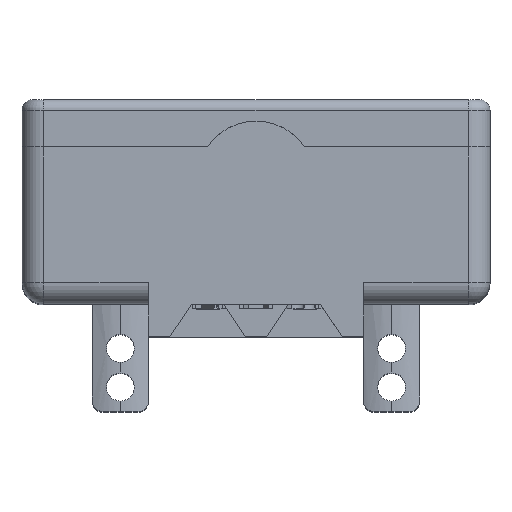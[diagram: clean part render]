
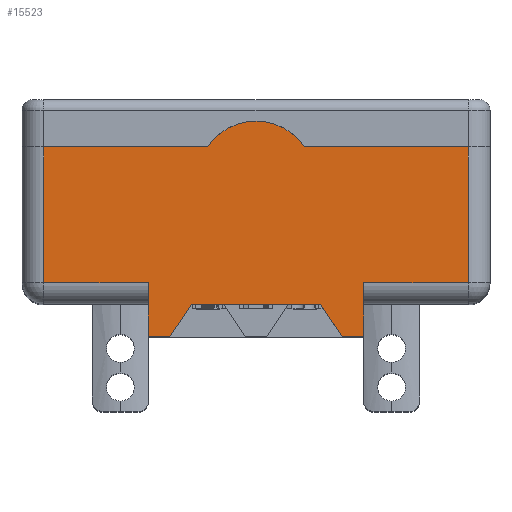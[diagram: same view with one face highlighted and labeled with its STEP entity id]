
A CAD part, top view. The second image highlights one B-rep face of the part: STEP entity #15523.
In plain terms, the highlighted planar face has unit normal (0, 0, 1).
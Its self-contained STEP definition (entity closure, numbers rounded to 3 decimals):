
#176 = LINE ( 'NONE', #177, #14412 ) ;
#177 = CARTESIAN_POINT ( 'NONE',  ( 5., -8.8, 12.6 ) ) ;
#178 = DIRECTION ( 'NONE',  ( 0., -1., 0. ) ) ;
#230 = LINE ( 'NONE', #231, #9315 ) ;
#231 = CARTESIAN_POINT ( 'NONE',  ( -10.875, 0., 12.6 ) ) ;
#232 = DIRECTION ( 'NONE',  ( -1., 0., 0. ) ) ;
#252 = LINE ( 'NONE', #253, #7396 ) ;
#253 = CARTESIAN_POINT ( 'NONE',  ( -10.875, -8.8, 12.6 ) ) ;
#254 = DIRECTION ( 'NONE',  ( -1., 0., 0. ) ) ;
#323 = CARTESIAN_POINT ( 'NONE',  ( 0., -1.509, 12.6 ) ) ;
#327 = DIRECTION ( 'NONE',  ( 0., 0., 1. ) ) ;
#328 = DIRECTION ( 'NONE',  ( -1., 0., 0. ) ) ;
#330 = LINE ( 'NONE', #331, #7416 ) ;
#331 = CARTESIAN_POINT ( 'NONE',  ( -10.875, -6.3, 12.6 ) ) ;
#332 = DIRECTION ( 'NONE',  ( 1., 0., 0. ) ) ;
#333 = LINE ( 'NONE', #334, #7417 ) ;
#334 = CARTESIAN_POINT ( 'NONE',  ( -3., -7.3, 12.6 ) ) ;
#335 = DIRECTION ( 'NONE',  ( -0.555, -0.832, 0. ) ) ;
#536 = LINE ( 'NONE', #537, #9396 ) ;
#537 = CARTESIAN_POINT ( 'NONE',  ( -5., -8.8, 12.6 ) ) ;
#538 = DIRECTION ( 'NONE',  ( 0., 1., 0. ) ) ;
#1131 = LINE ( 'NONE', #1132, #14283 ) ;
#1132 = CARTESIAN_POINT ( 'NONE',  ( -10.875, -8.8, 12.6 ) ) ;
#1133 = DIRECTION ( 'NONE',  ( -1., 0., 0. ) ) ;
#4398 = PLANE ( 'NONE',  #9152 ) ;
#4399 = CARTESIAN_POINT ( 'NONE',  ( -10.875, -8.8, 12.6 ) ) ;
#4400 = DIRECTION ( 'NONE',  ( 0., 0., -1. ) ) ;
#4401 = DIRECTION ( 'NONE',  ( -1., 0., 0. ) ) ;
#4929 = CARTESIAN_POINT ( 'NONE',  ( 5., -8.8, 12.6 ) ) ;
#4968 = CARTESIAN_POINT ( 'NONE',  ( -4., -8.8, 12.6 ) ) ;
#4976 = CARTESIAN_POINT ( 'NONE',  ( -5., -8.8, 12.6 ) ) ;
#4981 = CARTESIAN_POINT ( 'NONE',  ( -5., -6.3, 12.6 ) ) ;
#4982 = CARTESIAN_POINT ( 'NONE',  ( 9.875, -6.3, 12.6 ) ) ;
#4989 = CARTESIAN_POINT ( 'NONE',  ( -9.875, 0., 12.6 ) ) ;
#4990 = CARTESIAN_POINT ( 'NONE',  ( -2.25, 0., 12.6 ) ) ;
#5033 = CARTESIAN_POINT ( 'NONE',  ( -9.875, -6.3, 12.6 ) ) ;
#5051 = CARTESIAN_POINT ( 'NONE',  ( 4., -8.8, 12.6 ) ) ;
#5064 = CARTESIAN_POINT ( 'NONE',  ( 5., -6.3, 12.6 ) ) ;
#5146 = CARTESIAN_POINT ( 'NONE',  ( -3., -7.3, 12.6 ) ) ;
#5147 = CARTESIAN_POINT ( 'NONE',  ( 3., -7.3, 12.6 ) ) ;
#5186 = CARTESIAN_POINT ( 'NONE',  ( 9.875, 0., 12.6 ) ) ;
#5187 = CARTESIAN_POINT ( 'NONE',  ( 2.25, 0., 12.6 ) ) ;
#7396 = VECTOR ( 'NONE', #254, 1000. ) ;
#7416 = VECTOR ( 'NONE', #332, 1000. ) ;
#7417 = VECTOR ( 'NONE', #335, 1000. ) ;
#7435 = AXIS2_PLACEMENT_3D ( 'NONE', #323, #327, #328 ) ;
#7530 = EDGE_CURVE ( 'NONE', #16367, #16315, #22363, .T. ) ;
#7531 = EDGE_CURVE ( 'NONE', #16385, #16493, #22366, .T. ) ;
#7532 = EDGE_CURVE ( 'NONE', #16316, #16532, #22369, .T. ) ;
#7533 = EDGE_CURVE ( 'NONE', #16323, #16367, #22372, .T. ) ;
#7633 = EDGE_CURVE ( 'NONE', #16398, #16263, #176, .T. ) ;
#7651 = EDGE_CURVE ( 'NONE', #16324, #16323, #230, .T. ) ;
#7658 = EDGE_CURVE ( 'NONE', #16302, #16310, #252, .T. ) ;
#7683 = EDGE_CURVE ( 'NONE', #16533, #16324, #21305, .T. ) ;
#7684 = EDGE_CURVE ( 'NONE', #16398, #16316, #330, .T. ) ;
#7685 = EDGE_CURVE ( 'NONE', #16492, #16302, #333, .T. ) ;
#7747 = EDGE_CURVE ( 'NONE', #16310, #16315, #536, .T. ) ;
#7881 = EDGE_CURVE ( 'NONE', #16263, #16385, #1131, .T. ) ;
#9152 = AXIS2_PLACEMENT_3D ( 'NONE', #4399, #4400, #4401 ) ;
#9165 = FACE_OUTER_BOUND ( 'NONE', #17049, .T. ) ;
#9315 = VECTOR ( 'NONE', #232, 1000. ) ;
#9396 = VECTOR ( 'NONE', #538, 1000. ) ;
#11576 = LINE ( 'NONE', #11577, #12111 ) ;
#11577 = CARTESIAN_POINT ( 'NONE',  ( -10.875, 0., 12.6 ) ) ;
#11578 = DIRECTION ( 'NONE',  ( -1., 0., 0. ) ) ;
#11917 = LINE ( 'NONE', #11918, #12164 ) ;
#11918 = CARTESIAN_POINT ( 'NONE',  ( 1.5, -7.3, 12.6 ) ) ;
#11919 = DIRECTION ( 'NONE',  ( -1., 0., 0. ) ) ;
#12111 = VECTOR ( 'NONE', #11578, 1000. ) ;
#12164 = VECTOR ( 'NONE', #11919, 1000. ) ;
#14253 = VECTOR ( 'NONE', #22371, 1000. ) ;
#14283 = VECTOR ( 'NONE', #1133, 1000. ) ;
#14374 = VECTOR ( 'NONE', #22374, 1000. ) ;
#14391 = VECTOR ( 'NONE', #22368, 1000. ) ;
#14396 = VECTOR ( 'NONE', #22365, 1000. ) ;
#14412 = VECTOR ( 'NONE', #178, 1000. ) ;
#15523 = ADVANCED_FACE ( 'NONE', ( #9165 ), #4398, .F. ) ;
#16263 = VERTEX_POINT ( 'NONE', #4929 ) ;
#16302 = VERTEX_POINT ( 'NONE', #4968 ) ;
#16310 = VERTEX_POINT ( 'NONE', #4976 ) ;
#16315 = VERTEX_POINT ( 'NONE', #4981 ) ;
#16316 = VERTEX_POINT ( 'NONE', #4982 ) ;
#16323 = VERTEX_POINT ( 'NONE', #4989 ) ;
#16324 = VERTEX_POINT ( 'NONE', #4990 ) ;
#16367 = VERTEX_POINT ( 'NONE', #5033 ) ;
#16385 = VERTEX_POINT ( 'NONE', #5051 ) ;
#16398 = VERTEX_POINT ( 'NONE', #5064 ) ;
#16492 = VERTEX_POINT ( 'NONE', #5146 ) ;
#16493 = VERTEX_POINT ( 'NONE', #5147 ) ;
#16532 = VERTEX_POINT ( 'NONE', #5186 ) ;
#16533 = VERTEX_POINT ( 'NONE', #5187 ) ;
#17049 = EDGE_LOOP ( 'NONE', ( #17362, #17364, #17363, #17365, #17366, #17367, #17369, #17370, #17368, #17372, #17371, #17373, #17374, #17375 ) ) ;
#17362 = ORIENTED_EDGE ( 'NONE', *, *, #7530, .T. ) ;
#17363 = ORIENTED_EDGE ( 'NONE', *, *, #7658, .F. ) ;
#17364 = ORIENTED_EDGE ( 'NONE', *, *, #7747, .F. ) ;
#17365 = ORIENTED_EDGE ( 'NONE', *, *, #7685, .F. ) ;
#17366 = ORIENTED_EDGE ( 'NONE', *, *, #20905, .F. ) ;
#17367 = ORIENTED_EDGE ( 'NONE', *, *, #7531, .F. ) ;
#17368 = ORIENTED_EDGE ( 'NONE', *, *, #7684, .T. ) ;
#17369 = ORIENTED_EDGE ( 'NONE', *, *, #7881, .F. ) ;
#17370 = ORIENTED_EDGE ( 'NONE', *, *, #7633, .F. ) ;
#17371 = ORIENTED_EDGE ( 'NONE', *, *, #20839, .T. ) ;
#17372 = ORIENTED_EDGE ( 'NONE', *, *, #7532, .T. ) ;
#17373 = ORIENTED_EDGE ( 'NONE', *, *, #7683, .T. ) ;
#17374 = ORIENTED_EDGE ( 'NONE', *, *, #7651, .T. ) ;
#17375 = ORIENTED_EDGE ( 'NONE', *, *, #7533, .T. ) ;
#20839 = EDGE_CURVE ( 'NONE', #16532, #16533, #11576, .T. ) ;
#20905 = EDGE_CURVE ( 'NONE', #16493, #16492, #11917, .T. ) ;
#21305 = CIRCLE ( 'NONE', #7435, 2.709 ) ;
#22363 = LINE ( 'NONE', #22364, #14396 ) ;
#22364 = CARTESIAN_POINT ( 'NONE',  ( -10.875, -6.3, 12.6 ) ) ;
#22365 = DIRECTION ( 'NONE',  ( 1., 0., 0. ) ) ;
#22366 = LINE ( 'NONE', #22367, #14391 ) ;
#22367 = CARTESIAN_POINT ( 'NONE',  ( 4., -8.8, 12.6 ) ) ;
#22368 = DIRECTION ( 'NONE',  ( -0.555, 0.832, 0. ) ) ;
#22369 = LINE ( 'NONE', #22370, #14253 ) ;
#22370 = CARTESIAN_POINT ( 'NONE',  ( 9.875, -8.8, 12.6 ) ) ;
#22371 = DIRECTION ( 'NONE',  ( 0., 1., 0. ) ) ;
#22372 = LINE ( 'NONE', #22373, #14374 ) ;
#22373 = CARTESIAN_POINT ( 'NONE',  ( -9.875, -8.8, 12.6 ) ) ;
#22374 = DIRECTION ( 'NONE',  ( 0., -1., 0. ) ) ;
